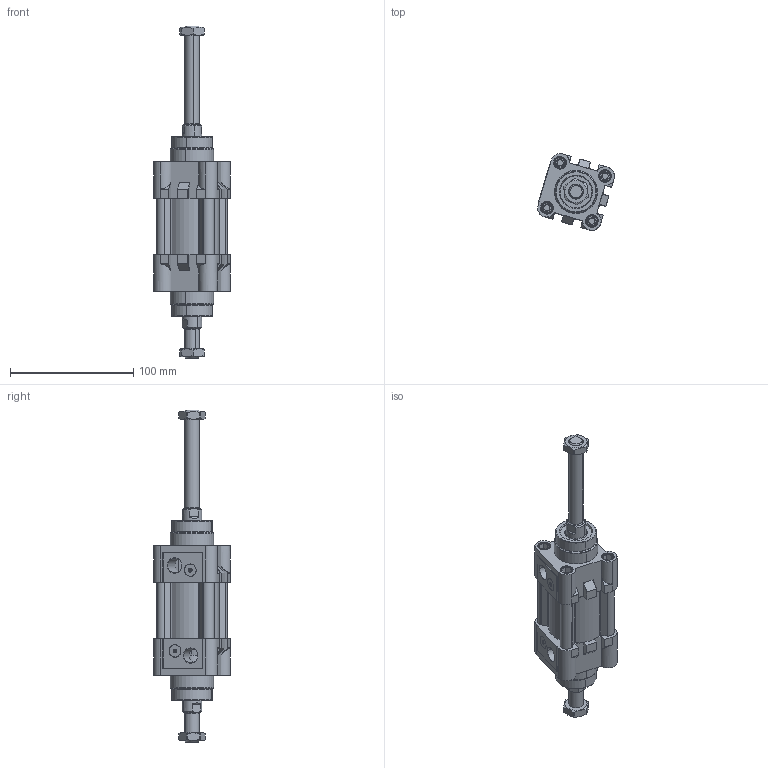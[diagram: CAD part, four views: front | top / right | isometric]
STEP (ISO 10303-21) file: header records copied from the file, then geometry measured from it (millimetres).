
FILE_DESCRIPTION (( 'STEP AP203' ), '1' );
FILE_NAME ('MDNC40X0CIFTMILLI-STROK AYARLI-CYLINDER.STEP', '2014-07-09T07:06:18', ( 'user' ), ( '' ), 'SwSTEP 2.0', 'SolidWorks 2013', '' );
FILE_SCHEMA (( 'CONFIG_CONTROL_DESIGN' ));
Length unit declared in the file: millimetre
Products named in the file (18): SOMUN 40; YASTIKLAMA KEÇESÝ 40; MDNC 40X0 BORU; KAPAK O-RÝNGÝ 40; Saplama Mili STROK AYARLI 40X0 STROK; YASTIKLAMA VÝDASI 40; MDNC40X0CIFTMILLI-STROK AYARLI-CYLINDER; YASTIKLAMA VÝDASI O-RÝNG 40; YATAKLAMA BANDI 40; PUL 40; PÝSTON KEÇESÝ 40; CIVATA 40; MIKNATIS 40; ORTA PÝSTON 40 Çift Milli; Piston Mili 40X0 STROK; ORTA PÝSTON O-RÝNG 40; ﾖN MﾝL KEﾇESﾝ 40; 烰 KAPAK  40
Assembly tree (35 placements, depth 2):
  MDNC40X0CIFTMILLI-STROK AYARLI-CYLINDER
    ORTA PÝSTON 40 Çift Milli
    YATAKLAMA BANDI 40
    PÝSTON KEÇESÝ 40  x2
    MIKNATIS 40  x2
    ORTA PÝSTON O-RÝNG 40  x2
    烰 KAPAK  40  x2
    YASTIKLAMA KEÇESÝ 40  x2
    KAPAK O-RÝNGÝ 40  x2
    YASTIKLAMA VÝDASI 40  x2
    YASTIKLAMA VÝDASI O-RÝNG 40  x2
    PUL 40  x2
    CIVATA 40  x8
    Piston Mili 40X0 STROK
    ﾖN MﾝL KEﾇESﾝ 40  x2
    SOMUN 40  x2
    MDNC 40X0 BORU
    Saplama Mili STROK AYARLI 40X0 STROK
Bounding box: 62.19 x 62.18 x 269.1 mm (x, y, z)
Volume: 256041.7 mm3; surface area: 128963 mm2
Topology: 37 solids, 37 shells, 1485 faces, 3437 edges, 2126 vertices
Faces by surface type: cylinder 507, plane 500, cone 302, torus 140, bspline 24, sphere 12
Entity records: 26004 total; most frequent: CARTESIAN_POINT 5612, DIRECTION 3964, ORIENTED_EDGE 3636, EDGE_CURVE 1818, AXIS2_PLACEMENT_3D 1614, VERTEX_POINT 1134, EDGE_LOOP 882, CIRCLE 811
